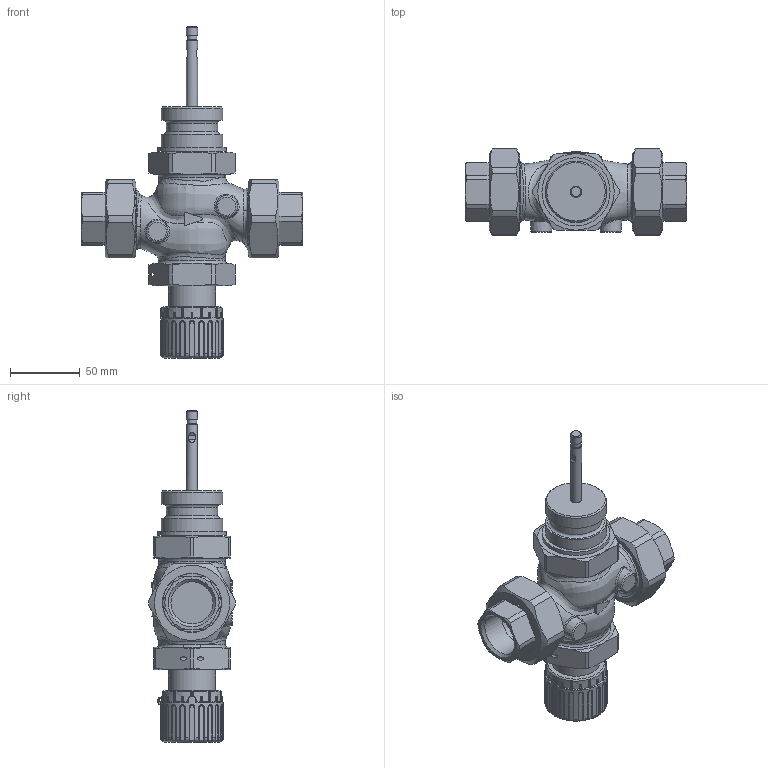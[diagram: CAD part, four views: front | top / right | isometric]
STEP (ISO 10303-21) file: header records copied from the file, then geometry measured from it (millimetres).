
FILE_DESCRIPTION(/* description */ (''),/* implementation_level */ '2;1');
FILE_NAME(/* name */ 'rv122_T_dn25_T.stp',/* time_stamp */ '2025-07-09T08:04:09+02:00',/* author */ ('Jan Novák'),/* organization */ ('LDM'),/* preprocessor_version */ 'ST-DEVELOPER v18.102',/* originating_system */ 'SIEMENS PLM Software NX2206.3001',/* authorisation */ '');
FILE_SCHEMA (('AUTOMOTIVE_DESIGN { 1 0 10303 214 3 1 1 1 }'));
Length unit declared in the file: millimetre
Products named in the file (1): rv_0767-770_rv122_T_dn25_objects
Bounding box: 159 x 61.98 x 238.6 mm (x, y, z)
Volume: 511319.2 mm3; surface area: 86120.2 mm2
Topology: 7 solids, 7 shells, 619 faces, 1527 edges, 946 vertices
Faces by surface type: cylinder 218, plane 183, bspline 107, cone 59, torus 52
Full cylindrical faces by diameter (mm): 2 x1, 2.5 x1, 7 x1, 8 x2, 30.291 x2, 33 x4, 33.8 x1, 37 x2, 38 x1, 42 x2, 42.5 x2, 43 x1, 44 x4, 44.5 x2, 44.845 x2, 47.8 x2, 49 x1
Entity records: 29768 total; most frequent: CARTESIAN_POINT 16305, ORIENTED_EDGE 2856, DIRECTION 2556, EDGE_CURVE 1428, AXIS2_PLACEMENT_3D 1063, VERTEX_POINT 911, EDGE_LOOP 723, ADVANCED_FACE 619
